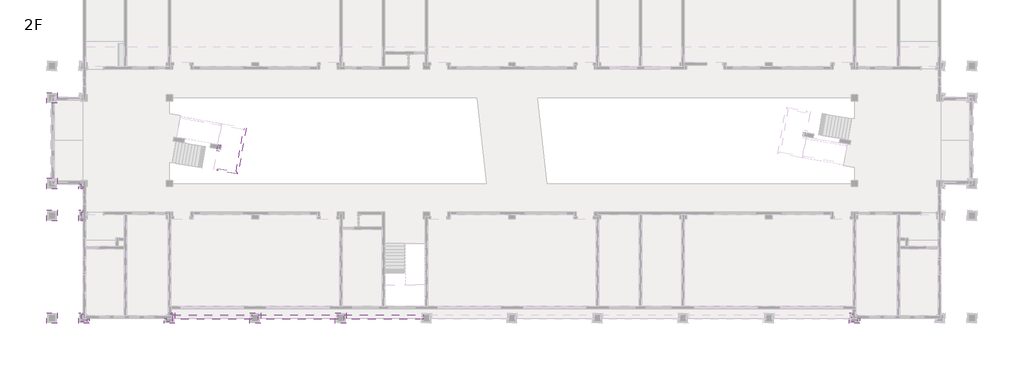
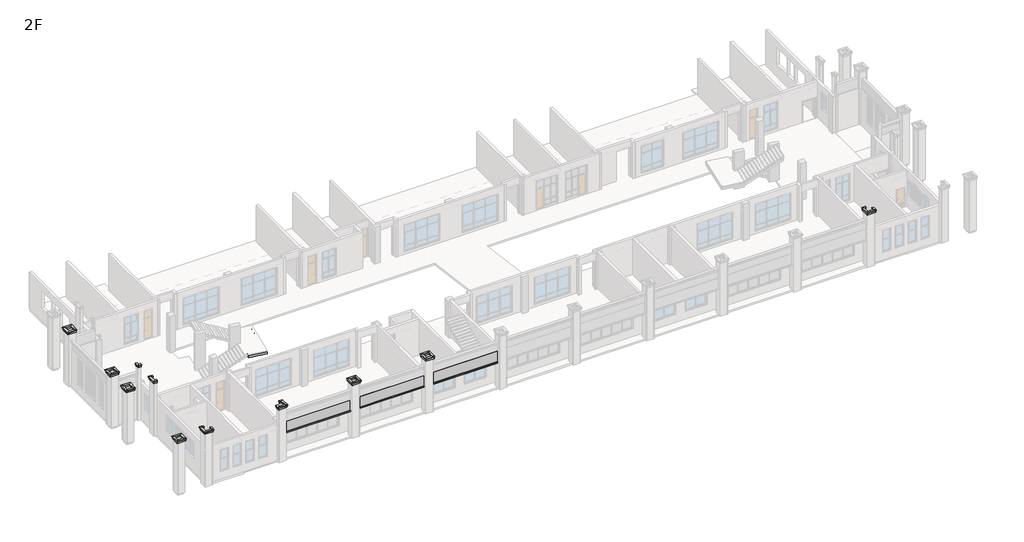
# One storey, part 13 of 16: 14 proxies, 3 members.
"""IFC4 building model written with IfcOpenShell, lengths in millimetres."""

from ifc_helpers import new_model, si_unit, frame, origin, place, context, project, spatial, polyline, outline, extrude, faceted_brep, transform, mapped, element, save
from components import generic_models_fbc45798

model = new_model("IFC4")

# Units and contexts
model_context = context("Model", 3, world=origin())
ifc_project = project(units=[si_unit("LENGTHUNIT", "METRE", prefix="MILLI")], contexts=[model_context])

# Site, building, storey
site = spatial("IfcSite", under=ifc_project)
building = spatial("IfcBuilding", under=site)
storey = spatial("IfcBuildingStorey", under=building, Name="2F", Elevation=4200.0)

# Proxies
placement = place(None, origin())
generic_models_shape = generic_models_fbc45798(model_context)
element("IfcBuildingElementProxy", 1, Name="走廊板 : h=300mm", ObjectType="走廊板 : h=300mm", at=placement, inside=storey, context=model_context, shape_type="MappedRepresentation", body=[
    mapped(generic_models_shape, transform((11300.0, 150.0, 8400.0), x_axis=(1.0, 0.0, 0.0), y_axis=(0.0, 1.0, 0.0), z_axis=(0.0, 0.0, 1.0))),
])
element("IfcBuildingElementProxy", 2, Name="走廊板 : h=300mm", ObjectType="走廊板 : h=300mm", at=placement, inside=storey, context=model_context, shape_type="MappedRepresentation", body=[
    mapped(generic_models_shape, transform((19300.0, 150.0, 8400.0), x_axis=(1.0, 0.0, 0.0), y_axis=(0.0, 1.0, 0.0), z_axis=(0.0, 0.0, 1.0))),
])
element("IfcBuildingElementProxy", 3, Name="走廊板 : h=300mm", ObjectType="走廊板 : h=300mm", at=placement, inside=storey, context=model_context, shape_type="MappedRepresentation", body=[
    mapped(generic_models_shape, transform((27300.0, 150.0, 8400.0), x_axis=(1.0, 0.0, 0.0), y_axis=(0.0, 1.0, 0.0), z_axis=(0.0, 0.0, 1.0))),
])
element("IfcBuildingElementProxy", 4, Name="QS2", ObjectType="QS2", at=placement, inside=storey, context=model_context, shape_type="Brep", body=[
    faceted_brep([(-450.0, 9150.0, 10300.0), (-400.0, 9200.0, 10300.0), (-400.0, 9200.0, 10550.0), (-300.0, 9300.0, 10550.0), (-300.0, 9300.0, 10600.0), (-500.0, 9100.0, 10600.0), (-500.0, 9100.0, 10500.0), (-450.0, 9150.0, 10500.0), (-450.0, 10050.0, 10300.0), (-450.0, 10050.0, 10500.0), (-500.0, 10100.0, 10500.0), (-500.0, 10100.0, 10600.0), (-300.0, 9900.0, 10600.0), (-300.0, 9900.0, 10550.0), (-400.0, 10000.0, 10550.0), (-400.0, 10000.0, 10300.0)], [[[0, 1, 2, 3, 4, 5, 6, 7]], [[8, 9, 10, 11, 12, 13, 14, 15]], [[1, 0, 8, 15]], [[2, 1, 15, 14]], [[3, 2, 14, 13]], [[4, 3, 13, 12]], [[5, 4, 12, 11]], [[6, 5, 11, 10]], [[7, 6, 10, 9]], [[0, 7, 9, 8]]]),
    faceted_brep([(-450.0, 10050.0, 10300.0), (-400.0, 10000.0, 10300.0), (-400.0, 10000.0, 10550.0), (-300.0, 9900.0, 10550.0), (-300.0, 9900.0, 10600.0), (-500.0, 10100.0, 10600.0), (-500.0, 10100.0, 10500.0), (-450.0, 10050.0, 10500.0), (450.0, 10050.0, 10300.0), (450.0, 10050.0, 10500.0), (500.0, 10100.0, 10500.0), (500.0, 10100.0, 10600.0), (300.0, 9900.0, 10600.0), (300.0, 9900.0, 10550.0), (400.0, 10000.0, 10550.0), (400.0, 10000.0, 10300.0)], [[[0, 1, 2, 3, 4, 5, 6, 7]], [[8, 9, 10, 11, 12, 13, 14, 15]], [[1, 0, 8, 15]], [[2, 1, 15, 14]], [[3, 2, 14, 13]], [[4, 3, 13, 12]], [[5, 4, 12, 11]], [[6, 5, 11, 10]], [[7, 6, 10, 9]], [[0, 7, 9, 8]]]),
    faceted_brep([(450.0, 10050.0, 10300.0), (400.0, 10000.0, 10300.0), (400.0, 10000.0, 10550.0), (300.0, 9900.0, 10550.0), (300.0, 9900.0, 10600.0), (500.0, 10100.0, 10600.0), (500.0, 10100.0, 10500.0), (450.0, 10050.0, 10500.0), (450.0, 9150.0, 10300.0), (450.0, 9150.0, 10500.0), (500.0, 9100.0, 10500.0), (500.0, 9100.0, 10600.0), (300.0, 9300.0, 10600.0), (300.0, 9300.0, 10550.0), (400.0, 9200.0, 10550.0), (400.0, 9200.0, 10300.0)], [[[0, 1, 2, 3, 4, 5, 6, 7]], [[8, 9, 10, 11, 12, 13, 14, 15]], [[1, 0, 8, 15]], [[2, 1, 15, 14]], [[3, 2, 14, 13]], [[4, 3, 13, 12]], [[5, 4, 12, 11]], [[6, 5, 11, 10]], [[7, 6, 10, 9]], [[0, 7, 9, 8]]]),
    faceted_brep([(450.0, 9150.0, 10300.0), (400.0, 9200.0, 10300.0), (400.0, 9200.0, 10550.0), (300.0, 9300.0, 10550.0), (300.0, 9300.0, 10600.0), (500.0, 9100.0, 10600.0), (500.0, 9100.0, 10500.0), (450.0, 9150.0, 10500.0), (-450.0, 9150.0, 10300.0), (-450.0, 9150.0, 10500.0), (-500.0, 9100.0, 10500.0), (-500.0, 9100.0, 10600.0), (-300.0, 9300.0, 10600.0), (-300.0, 9300.0, 10550.0), (-400.0, 9200.0, 10550.0), (-400.0, 9200.0, 10300.0)], [[[0, 1, 2, 3, 4, 5, 6, 7]], [[8, 9, 10, 11, 12, 13, 14, 15]], [[1, 0, 8, 15]], [[2, 1, 15, 14]], [[3, 2, 14, 13]], [[4, 3, 13, 12]], [[5, 4, 12, 11]], [[6, 5, 11, 10]], [[7, 6, 10, 9]], [[0, 7, 9, 8]]]),
])
element("IfcBuildingElementProxy", 5, Name="QS2", ObjectType="QS2", at=placement, inside=storey, context=model_context, shape_type="Brep", body=[
    faceted_brep([(-450.0, -450.0, 10300.0), (-400.0, -400.0, 10300.0), (-400.0, -400.0, 10550.0), (-300.0, -300.0, 10550.0), (-300.0, -300.0, 10600.0), (-500.0, -500.0, 10600.0), (-500.0, -500.0, 10500.0), (-450.0, -450.0, 10500.0), (-450.0, 450.0, 10300.0), (-450.0, 450.0, 10500.0), (-500.0, 500.0, 10500.0), (-500.0, 500.0, 10600.0), (-300.0, 300.0, 10600.0), (-300.0, 300.0, 10550.0), (-400.0, 400.0, 10550.0), (-400.0, 400.0, 10300.0)], [[[0, 1, 2, 3, 4, 5, 6, 7]], [[8, 9, 10, 11, 12, 13, 14, 15]], [[1, 0, 8, 15]], [[2, 1, 15, 14]], [[3, 2, 14, 13]], [[4, 3, 13, 12]], [[5, 4, 12, 11]], [[6, 5, 11, 10]], [[7, 6, 10, 9]], [[0, 7, 9, 8]]]),
    faceted_brep([(-450.0, 450.0, 10300.0), (-400.0, 400.0, 10300.0), (-400.0, 400.0, 10550.0), (-300.0, 300.0, 10550.0), (-300.0, 300.0, 10600.0), (-500.0, 500.0, 10600.0), (-500.0, 500.0, 10500.0), (-450.0, 450.0, 10500.0), (450.0, 450.0, 10300.0), (450.0, 450.0, 10500.0), (500.0, 500.0, 10500.0), (500.0, 500.0, 10600.0), (300.0, 300.0, 10600.0), (300.0, 300.0, 10550.0), (400.0, 400.0, 10550.0), (400.0, 400.0, 10300.0)], [[[0, 1, 2, 3, 4, 5, 6, 7]], [[8, 9, 10, 11, 12, 13, 14, 15]], [[1, 0, 8, 15]], [[2, 1, 15, 14]], [[3, 2, 14, 13]], [[4, 3, 13, 12]], [[5, 4, 12, 11]], [[6, 5, 11, 10]], [[7, 6, 10, 9]], [[0, 7, 9, 8]]]),
    faceted_brep([(450.0, 450.0, 10300.0), (400.0, 400.0, 10300.0), (400.0, 400.0, 10550.0), (300.0, 300.0, 10550.0), (300.0, 300.0, 10600.0), (500.0, 500.0, 10600.0), (500.0, 500.0, 10500.0), (450.0, 450.0, 10500.0), (450.0, -450.0, 10300.0), (450.0, -450.0, 10500.0), (500.0, -500.0, 10500.0), (500.0, -500.0, 10600.0), (300.0, -300.0, 10600.0), (300.0, -300.0, 10550.0), (400.0, -400.0, 10550.0), (400.0, -400.0, 10300.0)], [[[0, 1, 2, 3, 4, 5, 6, 7]], [[8, 9, 10, 11, 12, 13, 14, 15]], [[1, 0, 8, 15]], [[2, 1, 15, 14]], [[3, 2, 14, 13]], [[4, 3, 13, 12]], [[5, 4, 12, 11]], [[6, 5, 11, 10]], [[7, 6, 10, 9]], [[0, 7, 9, 8]]]),
    faceted_brep([(450.0, -450.0, 10300.0), (400.0, -400.0, 10300.0), (400.0, -400.0, 10550.0), (300.0, -300.0, 10550.0), (300.0, -300.0, 10600.0), (500.0, -500.0, 10600.0), (500.0, -500.0, 10500.0), (450.0, -450.0, 10500.0), (-450.0, -450.0, 10300.0), (-450.0, -450.0, 10500.0), (-500.0, -500.0, 10500.0), (-500.0, -500.0, 10600.0), (-300.0, -300.0, 10600.0), (-300.0, -300.0, 10550.0), (-400.0, -400.0, 10550.0), (-400.0, -400.0, 10300.0)], [[[0, 1, 2, 3, 4, 5, 6, 7]], [[8, 9, 10, 11, 12, 13, 14, 15]], [[1, 0, 8, 15]], [[2, 1, 15, 14]], [[3, 2, 14, 13]], [[4, 3, 13, 12]], [[5, 4, 12, 11]], [[6, 5, 11, 10]], [[7, 6, 10, 9]], [[0, 7, 9, 8]]]),
])
element("IfcBuildingElementProxy", 6, Name="QS2", ObjectType="QS2", at=placement, inside=storey, context=model_context, shape_type="Brep", body=[
    faceted_brep([(-450.0, 12150.0, 10300.0), (-400.0, 12200.0, 10300.0), (-400.0, 12200.0, 10550.0), (-300.0, 12300.0, 10550.0), (-300.0, 12300.0, 10600.0), (-500.0, 12100.0, 10600.0), (-500.0, 12100.0, 10500.0), (-450.0, 12150.0, 10500.0), (-450.0, 13050.0, 10300.0), (-450.0, 13050.0, 10500.0), (-500.0, 13100.0, 10500.0), (-500.0, 13100.0, 10600.0), (-300.0, 12900.0, 10600.0), (-300.0, 12900.0, 10550.0), (-400.0, 13000.0, 10550.0), (-400.0, 13000.0, 10300.0)], [[[0, 1, 2, 3, 4, 5, 6, 7]], [[8, 9, 10, 11, 12, 13, 14, 15]], [[1, 0, 8, 15]], [[2, 1, 15, 14]], [[3, 2, 14, 13]], [[4, 3, 13, 12]], [[5, 4, 12, 11]], [[6, 5, 11, 10]], [[7, 6, 10, 9]], [[0, 7, 9, 8]]]),
    faceted_brep([(-450.0, 13050.0, 10300.0), (-400.0, 13000.0, 10300.0), (-400.0, 13000.0, 10550.0), (-300.0, 12900.0, 10550.0), (-300.0, 12900.0, 10600.0), (-500.0, 13100.0, 10600.0), (-500.0, 13100.0, 10500.0), (-450.0, 13050.0, 10500.0), (450.0, 13050.0, 10300.0), (450.0, 13050.0, 10500.0), (500.0, 13100.0, 10500.0), (500.0, 13100.0, 10600.0), (300.0, 12900.0, 10600.0), (300.0, 12900.0, 10550.0), (400.0, 13000.0, 10550.0), (400.0, 13000.0, 10300.0)], [[[0, 1, 2, 3, 4, 5, 6, 7]], [[8, 9, 10, 11, 12, 13, 14, 15]], [[1, 0, 8, 15]], [[2, 1, 15, 14]], [[3, 2, 14, 13]], [[4, 3, 13, 12]], [[5, 4, 12, 11]], [[6, 5, 11, 10]], [[7, 6, 10, 9]], [[0, 7, 9, 8]]]),
    faceted_brep([(450.0, 13050.0, 10300.0), (400.0, 13000.0, 10300.0), (400.0, 13000.0, 10550.0), (300.0, 12900.0, 10550.0), (300.0, 12900.0, 10600.0), (500.0, 13100.0, 10600.0), (500.0, 13100.0, 10500.0), (450.0, 13050.0, 10500.0), (450.0, 12150.0, 10300.0), (450.0, 12150.0, 10500.0), (500.0, 12100.0, 10500.0), (500.0, 12100.0, 10600.0), (300.0, 12300.0, 10600.0), (300.0, 12300.0, 10550.0), (400.0, 12200.0, 10550.0), (400.0, 12200.0, 10300.0)], [[[0, 1, 2, 3, 4, 5, 6, 7]], [[8, 9, 10, 11, 12, 13, 14, 15]], [[1, 0, 8, 15]], [[2, 1, 15, 14]], [[3, 2, 14, 13]], [[4, 3, 13, 12]], [[5, 4, 12, 11]], [[6, 5, 11, 10]], [[7, 6, 10, 9]], [[0, 7, 9, 8]]]),
    faceted_brep([(450.0, 12150.0, 10300.0), (400.0, 12200.0, 10300.0), (400.0, 12200.0, 10550.0), (300.0, 12300.0, 10550.0), (300.0, 12300.0, 10600.0), (500.0, 12100.0, 10600.0), (500.0, 12100.0, 10500.0), (450.0, 12150.0, 10500.0), (-450.0, 12150.0, 10300.0), (-450.0, 12150.0, 10500.0), (-500.0, 12100.0, 10500.0), (-500.0, 12100.0, 10600.0), (-300.0, 12300.0, 10600.0), (-300.0, 12300.0, 10550.0), (-400.0, 12200.0, 10550.0), (-400.0, 12200.0, 10300.0)], [[[0, 1, 2, 3, 4, 5, 6, 7]], [[8, 9, 10, 11, 12, 13, 14, 15]], [[1, 0, 8, 15]], [[2, 1, 15, 14]], [[3, 2, 14, 13]], [[4, 3, 13, 12]], [[5, 4, 12, 11]], [[6, 5, 11, 10]], [[7, 6, 10, 9]], [[0, 7, 9, 8]]]),
])
element("IfcBuildingElementProxy", 7, Name="QS2", ObjectType="QS2", at=placement, inside=storey, context=model_context, shape_type="Brep", body=[
    faceted_brep([(-450.0, 20150.0, 10300.0), (-400.0, 20200.0, 10300.0), (-400.0, 20200.0, 10550.0), (-300.0, 20300.0, 10550.0), (-300.0, 20300.0, 10600.0), (-500.0, 20100.0, 10600.0), (-500.0, 20100.0, 10500.0), (-450.0, 20150.0, 10500.0), (-450.0, 21050.0, 10300.0), (-450.0, 21050.0, 10500.0), (-500.0, 21100.0, 10500.0), (-500.0, 21100.0, 10600.0), (-300.0, 20900.0, 10600.0), (-300.0, 20900.0, 10550.0), (-400.0, 21000.0, 10550.0), (-400.0, 21000.0, 10300.0)], [[[0, 1, 2, 3, 4, 5, 6, 7]], [[8, 9, 10, 11, 12, 13, 14, 15]], [[1, 0, 8, 15]], [[2, 1, 15, 14]], [[3, 2, 14, 13]], [[4, 3, 13, 12]], [[5, 4, 12, 11]], [[6, 5, 11, 10]], [[7, 6, 10, 9]], [[0, 7, 9, 8]]]),
    faceted_brep([(-450.0, 21050.0, 10300.0), (-400.0, 21000.0, 10300.0), (-400.0, 21000.0, 10550.0), (-300.0, 20900.0, 10550.0), (-300.0, 20900.0, 10600.0), (-500.0, 21100.0, 10600.0), (-500.0, 21100.0, 10500.0), (-450.0, 21050.0, 10500.0), (450.0, 21050.0, 10300.0), (450.0, 21050.0, 10500.0), (500.0, 21100.0, 10500.0), (500.0, 21100.0, 10600.0), (300.0, 20900.0, 10600.0), (300.0, 20900.0, 10550.0), (400.0, 21000.0, 10550.0), (400.0, 21000.0, 10300.0)], [[[0, 1, 2, 3, 4, 5, 6, 7]], [[8, 9, 10, 11, 12, 13, 14, 15]], [[1, 0, 8, 15]], [[2, 1, 15, 14]], [[3, 2, 14, 13]], [[4, 3, 13, 12]], [[5, 4, 12, 11]], [[6, 5, 11, 10]], [[7, 6, 10, 9]], [[0, 7, 9, 8]]]),
    faceted_brep([(450.0, 21050.0, 10300.0), (400.0, 21000.0, 10300.0), (400.0, 21000.0, 10550.0), (300.0, 20900.0, 10550.0), (300.0, 20900.0, 10600.0), (500.0, 21100.0, 10600.0), (500.0, 21100.0, 10500.0), (450.0, 21050.0, 10500.0), (450.0, 20150.0, 10300.0), (450.0, 20150.0, 10500.0), (500.0, 20100.0, 10500.0), (500.0, 20100.0, 10600.0), (300.0, 20300.0, 10600.0), (300.0, 20300.0, 10550.0), (400.0, 20200.0, 10550.0), (400.0, 20200.0, 10300.0)], [[[0, 1, 2, 3, 4, 5, 6, 7]], [[8, 9, 10, 11, 12, 13, 14, 15]], [[1, 0, 8, 15]], [[2, 1, 15, 14]], [[3, 2, 14, 13]], [[4, 3, 13, 12]], [[5, 4, 12, 11]], [[6, 5, 11, 10]], [[7, 6, 10, 9]], [[0, 7, 9, 8]]]),
    faceted_brep([(450.0, 20150.0, 10300.0), (400.0, 20200.0, 10300.0), (400.0, 20200.0, 10550.0), (300.0, 20300.0, 10550.0), (300.0, 20300.0, 10600.0), (500.0, 20100.0, 10600.0), (500.0, 20100.0, 10500.0), (450.0, 20150.0, 10500.0), (-450.0, 20150.0, 10300.0), (-450.0, 20150.0, 10500.0), (-500.0, 20100.0, 10500.0), (-500.0, 20100.0, 10600.0), (-300.0, 20300.0, 10600.0), (-300.0, 20300.0, 10550.0), (-400.0, 20200.0, 10550.0), (-400.0, 20200.0, 10300.0)], [[[0, 1, 2, 3, 4, 5, 6, 7]], [[8, 9, 10, 11, 12, 13, 14, 15]], [[1, 0, 8, 15]], [[2, 1, 15, 14]], [[3, 2, 14, 13]], [[4, 3, 13, 12]], [[5, 4, 12, 11]], [[6, 5, 11, 10]], [[7, 6, 10, 9]], [[0, 7, 9, 8]]]),
])
element("IfcBuildingElementProxy", 8, Name="QS2", ObjectType="QS2", at=placement, inside=storey, context=model_context, shape_type="Brep", body=[
    faceted_brep([(3450.0, -52.6954639, 10300.0), (3400.0, -52.6954639, 10300.0), (3400.0, -52.6954639, 10550.0), (3300.0, -52.6954639, 10550.0), (3300.0, -52.6954639, 10600.0), (3500.0, -52.6954639, 10600.0), (3500.0, -52.6954639, 10500.0), (3450.0, -52.6954639, 10500.0), (3450.0, -450.0, 10300.0), (3450.0, -450.0, 10500.0), (3500.0, -500.0, 10500.0), (3500.0, -500.0, 10600.0), (3300.0, -300.0, 10600.0), (3300.0, -300.0, 10550.0), (3400.0, -400.0, 10550.0), (3400.0, -400.0, 10300.0)], [[[0, 1, 2, 3, 4, 5, 6, 7]], [[8, 9, 10, 11, 12, 13, 14, 15]], [[0, 7, 9, 8]], [[7, 6, 10, 9]], [[6, 5, 11, 10]], [[5, 4, 12, 11]], [[4, 3, 13, 12]], [[3, 2, 14, 13]], [[2, 1, 15, 14]], [[1, 0, 8, 15]]]),
    faceted_brep([(3450.0, -450.0, 10300.0), (3400.0, -400.0, 10300.0), (3400.0, -400.0, 10550.0), (3300.0, -300.0, 10550.0), (3300.0, -300.0, 10600.0), (3500.0, -500.0, 10600.0), (3500.0, -500.0, 10500.0), (3450.0, -450.0, 10500.0), (2550.0, -450.0, 10300.0), (2550.0, -450.0, 10500.0), (2500.0, -500.0, 10500.0), (2500.0, -500.0, 10600.0), (2700.0, -300.0, 10600.0), (2700.0, -300.0, 10550.0), (2600.0, -400.0, 10550.0), (2600.0, -400.0, 10300.0)], [[[0, 1, 2, 3, 4, 5, 6, 7]], [[8, 9, 10, 11, 12, 13, 14, 15]], [[0, 7, 9, 8]], [[7, 6, 10, 9]], [[6, 5, 11, 10]], [[5, 4, 12, 11]], [[4, 3, 13, 12]], [[3, 2, 14, 13]], [[2, 1, 15, 14]], [[1, 0, 8, 15]]]),
    faceted_brep([(2550.0, -450.0, 10300.0), (2600.0, -400.0, 10300.0), (2600.0, -400.0, 10550.0), (2700.0, -300.0, 10550.0), (2700.0, -300.0, 10600.0), (2500.0, -500.0, 10600.0), (2500.0, -500.0, 10500.0), (2550.0, -450.0, 10500.0), (2550.0, 450.0, 10300.0), (2550.0, 450.0, 10500.0), (2500.0, 500.0, 10500.0), (2500.0, 500.0, 10600.0), (2700.0, 300.0, 10600.0), (2700.0, 300.0, 10550.0), (2600.0, 400.0, 10550.0), (2600.0, 400.0, 10300.0)], [[[0, 1, 2, 3, 4, 5, 6, 7]], [[8, 9, 10, 11, 12, 13, 14, 15]], [[0, 7, 9, 8]], [[7, 6, 10, 9]], [[6, 5, 11, 10]], [[5, 4, 12, 11]], [[4, 3, 13, 12]], [[3, 2, 14, 13]], [[2, 1, 15, 14]], [[1, 0, 8, 15]]]),
    faceted_brep([(2550.0, 450.0, 10300.0), (2600.0, 400.0, 10300.0), (2600.0, 400.0, 10550.0), (2700.0, 300.0, 10550.0), (2700.0, 300.0, 10600.0), (2500.0, 500.0, 10600.0), (2500.0, 500.0, 10500.0), (2550.0, 450.0, 10500.0), (2897.0000002, 450.0, 10300.0), (2897.0000002, 450.0, 10500.0), (2897.0000002, 500.0, 10500.0), (2897.0000002, 500.0, 10600.0), (2897.0000002, 300.0, 10600.0), (2897.0000002, 300.0, 10550.0), (2897.0000002, 400.0, 10550.0), (2897.0000002, 400.0, 10300.0)], [[[0, 1, 2, 3, 4, 5, 6, 7]], [[8, 9, 10, 11, 12, 13, 14, 15]], [[0, 7, 9, 8]], [[7, 6, 10, 9]], [[6, 5, 11, 10]], [[5, 4, 12, 11]], [[4, 3, 13, 12]], [[3, 2, 14, 13]], [[2, 1, 15, 14]], [[1, 0, 8, 15]]]),
])
element("IfcBuildingElementProxy", 9, Name="QS2", ObjectType="QS2", at=placement, inside=storey, context=model_context, shape_type="Brep", body=[
    faceted_brep([(2897.0000002, 9150.0, 10300.0), (2897.0000002, 9200.0, 10300.0), (2897.0000002, 9200.0, 10550.0), (2897.0000002, 9300.0, 10550.0), (2897.0000002, 9300.0, 10600.0), (2897.0000002, 9100.0, 10600.0), (2897.0000002, 9100.0, 10500.0), (2897.0000002, 9150.0, 10500.0), (2550.0, 9150.0, 10300.0), (2550.0, 9150.0, 10500.0), (2500.0, 9100.0, 10500.0), (2500.0, 9100.0, 10600.0), (2700.0, 9300.0, 10600.0), (2700.0, 9300.0, 10550.0), (2600.0, 9200.0, 10550.0), (2600.0, 9200.0, 10300.0)], [[[0, 1, 2, 3, 4, 5, 6, 7]], [[8, 9, 10, 11, 12, 13, 14, 15]], [[0, 7, 9, 8]], [[7, 6, 10, 9]], [[6, 5, 11, 10]], [[5, 4, 12, 11]], [[4, 3, 13, 12]], [[3, 2, 14, 13]], [[2, 1, 15, 14]], [[1, 0, 8, 15]]]),
    faceted_brep([(2550.0, 9150.0, 10300.0), (2600.0, 9200.0, 10300.0), (2600.0, 9200.0, 10550.0), (2700.0, 9300.0, 10550.0), (2700.0, 9300.0, 10600.0), (2500.0, 9100.0, 10600.0), (2500.0, 9100.0, 10500.0), (2550.0, 9150.0, 10500.0), (2550.0, 10050.0, 10300.0), (2550.0, 10050.0, 10500.0), (2500.0, 10100.0, 10500.0), (2500.0, 10100.0, 10600.0), (2700.0, 9900.0, 10600.0), (2700.0, 9900.0, 10550.0), (2600.0, 10000.0, 10550.0), (2600.0, 10000.0, 10300.0)], [[[0, 1, 2, 3, 4, 5, 6, 7]], [[8, 9, 10, 11, 12, 13, 14, 15]], [[0, 7, 9, 8]], [[7, 6, 10, 9]], [[6, 5, 11, 10]], [[5, 4, 12, 11]], [[4, 3, 13, 12]], [[3, 2, 14, 13]], [[2, 1, 15, 14]], [[1, 0, 8, 15]]]),
    faceted_brep([(2550.0, 10050.0, 10300.0), (2600.0, 10000.0, 10300.0), (2600.0, 10000.0, 10550.0), (2700.0, 9900.0, 10550.0), (2700.0, 9900.0, 10600.0), (2500.0, 10100.0, 10600.0), (2500.0, 10100.0, 10500.0), (2550.0, 10050.0, 10500.0), (2897.0000002, 10050.0, 10300.0), (2897.0000002, 10050.0, 10500.0), (2897.0000002, 10100.0, 10500.0), (2897.0000002, 10100.0, 10600.0), (2897.0000002, 9900.0, 10600.0), (2897.0000002, 9900.0, 10550.0), (2897.0000002, 10000.0, 10550.0), (2897.0000002, 10000.0, 10300.0)], [[[0, 1, 2, 3, 4, 5, 6, 7]], [[8, 9, 10, 11, 12, 13, 14, 15]], [[0, 7, 9, 8]], [[7, 6, 10, 9]], [[6, 5, 11, 10]], [[5, 4, 12, 11]], [[4, 3, 13, 12]], [[3, 2, 14, 13]], [[2, 1, 15, 14]], [[1, 0, 8, 15]]]),
])
element("IfcBuildingElementProxy", 10, Name="QS2", ObjectType="QS2", at=placement, inside=storey, context=model_context, shape_type="Brep", body=[
    faceted_brep([(2897.0000002, 12150.0, 10300.0), (2897.0000002, 12200.0, 10300.0), (2897.0000002, 12200.0, 10550.0), (2897.0000002, 12300.0, 10550.0), (2897.0000002, 12300.0, 10600.0), (2897.0000002, 12100.0, 10600.0), (2897.0000002, 12100.0, 10500.0), (2897.0000002, 12150.0, 10500.0), (2550.0, 12150.0, 10300.0), (2550.0, 12150.0, 10500.0), (2500.0, 12100.0, 10500.0), (2500.0, 12100.0, 10600.0), (2700.0, 12300.0, 10600.0), (2700.0, 12300.0, 10550.0), (2600.0, 12200.0, 10550.0), (2600.0, 12200.0, 10300.0)], [[[0, 1, 2, 3, 4, 5, 6, 7]], [[8, 9, 10, 11, 12, 13, 14, 15]], [[0, 7, 9, 8]], [[7, 6, 10, 9]], [[6, 5, 11, 10]], [[5, 4, 12, 11]], [[4, 3, 13, 12]], [[3, 2, 14, 13]], [[2, 1, 15, 14]], [[1, 0, 8, 15]]]),
    faceted_brep([(2550.0, 12150.0, 10300.0), (2600.0, 12200.0, 10300.0), (2600.0, 12200.0, 10550.0), (2700.0, 12300.0, 10550.0), (2700.0, 12300.0, 10600.0), (2500.0, 12100.0, 10600.0), (2500.0, 12100.0, 10500.0), (2550.0, 12150.0, 10500.0), (2550.0, 12566.6954636, 10300.0), (2550.0, 12566.6954636, 10500.0), (2500.0, 12566.6954636, 10500.0), (2500.0, 12566.6954636, 10600.0), (2700.0, 12566.6954636, 10600.0), (2700.0, 12566.6954636, 10550.0), (2600.0, 12566.6954636, 10550.0), (2600.0, 12566.6954636, 10300.0)], [[[0, 1, 2, 3, 4, 5, 6, 7]], [[8, 9, 10, 11, 12, 13, 14, 15]], [[0, 7, 9, 8]], [[7, 6, 10, 9]], [[6, 5, 11, 10]], [[5, 4, 12, 11]], [[4, 3, 13, 12]], [[3, 2, 14, 13]], [[2, 1, 15, 14]], [[1, 0, 8, 15]]]),
])
element("IfcBuildingElementProxy", 11, Name="QS2", ObjectType="QS2", at=placement, inside=storey, context=model_context, shape_type="Brep", body=[
    faceted_brep([(75450.0, -32.6954642, 10300.0), (75400.0, -32.6954642, 10300.0), (75400.0, -32.6954642, 10550.0), (75300.0, -32.6954642, 10550.0), (75300.0, -32.6954642, 10600.0), (75500.0, -32.6954642, 10600.0), (75500.0, -32.6954642, 10500.0), (75450.0, -32.6954642, 10500.0), (75450.0, -450.6090721, 10300.0), (75450.0, -450.6090721, 10500.0), (75500.0, -500.6090721, 10500.0), (75500.0, -500.6090721, 10600.0), (75300.0, -300.6090721, 10600.0), (75300.0, -300.6090721, 10550.0), (75400.0, -400.6090721, 10550.0), (75400.0, -400.6090721, 10300.0)], [[[0, 1, 2, 3, 4, 5, 6, 7]], [[8, 9, 10, 11, 12, 13, 14, 15]], [[1, 0, 8, 15]], [[2, 1, 15, 14]], [[3, 2, 14, 13]], [[4, 3, 13, 12]], [[5, 4, 12, 11]], [[6, 5, 11, 10]], [[7, 6, 10, 9]], [[0, 7, 9, 8]]]),
    faceted_brep([(75450.0, -450.6090721, 10300.0), (75400.0, -400.6090721, 10300.0), (75400.0, -400.6090721, 10550.0), (75300.0, -300.6090721, 10550.0), (75300.0, -300.6090721, 10600.0), (75500.0, -500.6090721, 10600.0), (75500.0, -500.6090721, 10500.0), (75450.0, -450.6090721, 10500.0), (74550.0, -450.6090721, 10300.0), (74550.0, -450.6090721, 10500.0), (74500.0, -500.6090721, 10500.0), (74500.0, -500.6090721, 10600.0), (74700.0, -300.6090721, 10600.0), (74700.0, -300.6090721, 10550.0), (74600.0, -400.6090721, 10550.0), (74600.0, -400.6090721, 10300.0)], [[[0, 1, 2, 3, 4, 5, 6, 7]], [[8, 9, 10, 11, 12, 13, 14, 15]], [[1, 0, 8, 15]], [[2, 1, 15, 14]], [[3, 2, 14, 13]], [[4, 3, 13, 12]], [[5, 4, 12, 11]], [[6, 5, 11, 10]], [[7, 6, 10, 9]], [[0, 7, 9, 8]]]),
    faceted_brep([(74550.0, -450.6090721, 10300.0), (74600.0, -400.6090721, 10300.0), (74600.0, -400.6090721, 10550.0), (74700.0, -300.6090721, 10550.0), (74700.0, -300.6090721, 10600.0), (74500.0, -500.6090721, 10600.0), (74500.0, -500.6090721, 10500.0), (74550.0, -450.6090721, 10500.0), (74550.0, 449.3909279, 10300.0), (74550.0, 449.3909279, 10500.0), (74500.0, 499.3909279, 10500.0), (74500.0, 499.3909279, 10600.0), (74700.0, 299.3909279, 10600.0), (74700.0, 299.3909279, 10550.0), (74600.0, 399.3909279, 10550.0), (74600.0, 399.3909279, 10300.0)], [[[0, 1, 2, 3, 4, 5, 6, 7]], [[8, 9, 10, 11, 12, 13, 14, 15]], [[1, 0, 8, 15]], [[2, 1, 15, 14]], [[3, 2, 14, 13]], [[4, 3, 13, 12]], [[5, 4, 12, 11]], [[6, 5, 11, 10]], [[7, 6, 10, 9]], [[0, 7, 9, 8]]]),
    faceted_brep([(74550.0, 449.3909279, 10300.0), (74600.0, 399.3909279, 10300.0), (74600.0, 399.3909279, 10550.0), (74700.0, 299.3909279, 10550.0), (74700.0, 299.3909279, 10600.0), (74500.0, 499.3909279, 10600.0), (74500.0, 499.3909279, 10500.0), (74550.0, 449.3909279, 10500.0), (74867.0, 449.3909279, 10300.0), (74867.0, 449.3909279, 10500.0), (74867.0, 499.3909279, 10500.0), (74867.0, 499.3909279, 10600.0), (74867.0, 299.3909279, 10600.0), (74867.0, 299.3909279, 10550.0), (74867.0, 399.3909279, 10550.0), (74867.0, 399.3909279, 10300.0)], [[[0, 1, 2, 3, 4, 5, 6, 7]], [[8, 9, 10, 11, 12, 13, 14, 15]], [[1, 0, 8, 15]], [[2, 1, 15, 14]], [[3, 2, 14, 13]], [[4, 3, 13, 12]], [[5, 4, 12, 11]], [[6, 5, 11, 10]], [[7, 6, 10, 9]], [[0, 7, 9, 8]]]),
])
element("IfcBuildingElementProxy", 12, Name="QS2", ObjectType="QS2", at=placement, inside=storey, context=model_context, shape_type="Brep", body=[
    faceted_brep([(10550.0, -32.6954639, 10300.0), (10550.0, -32.6954639, 10500.0), (10500.0, -32.6954639, 10500.0), (10500.0, -32.6954639, 10600.0), (10700.0, -32.6954639, 10600.0), (10700.0, -32.6954639, 10550.0), (10600.0, -32.6954639, 10550.0), (10600.0, -32.6954639, 10300.0), (10550.0, -450.0, 10300.0), (10600.0, -400.0, 10300.0), (10600.0, -400.0, 10550.0), (10700.0, -300.0, 10550.0), (10700.0, -300.0, 10600.0), (10500.0, -500.0, 10600.0), (10500.0, -500.0, 10500.0), (10550.0, -450.0, 10500.0)], [[[0, 1, 2, 3, 4, 5, 6, 7]], [[8, 9, 10, 11, 12, 13, 14, 15]], [[0, 7, 9, 8]], [[7, 6, 10, 9]], [[6, 5, 11, 10]], [[5, 4, 12, 11]], [[4, 3, 13, 12]], [[3, 2, 14, 13]], [[2, 1, 15, 14]], [[1, 0, 8, 15]]]),
    faceted_brep([(10550.0, -450.0, 10300.0), (10550.0, -450.0, 10500.0), (10500.0, -500.0, 10500.0), (10500.0, -500.0, 10600.0), (10700.0, -300.0, 10600.0), (10700.0, -300.0, 10550.0), (10600.0, -400.0, 10550.0), (10600.0, -400.0, 10300.0), (11450.0, -450.0, 10300.0), (11400.0, -400.0, 10300.0), (11400.0, -400.0, 10550.0), (11300.0, -300.0, 10550.0), (11300.0, -300.0, 10600.0), (11500.0, -500.0, 10600.0), (11500.0, -500.0, 10500.0), (11450.0, -450.0, 10500.0)], [[[0, 1, 2, 3, 4, 5, 6, 7]], [[8, 9, 10, 11, 12, 13, 14, 15]], [[0, 7, 9, 8]], [[7, 6, 10, 9]], [[6, 5, 11, 10]], [[5, 4, 12, 11]], [[4, 3, 13, 12]], [[3, 2, 14, 13]], [[2, 1, 15, 14]], [[1, 0, 8, 15]]]),
    faceted_brep([(11450.0, -450.0, 10300.0), (11450.0, -450.0, 10500.0), (11500.0, -500.0, 10500.0), (11500.0, -500.0, 10600.0), (11300.0, -300.0, 10600.0), (11300.0, -300.0, 10550.0), (11400.0, -400.0, 10550.0), (11400.0, -400.0, 10300.0), (11450.0, 450.0, 10300.0), (11400.0, 400.0, 10300.0), (11400.0, 400.0, 10550.0), (11300.0, 300.0, 10550.0), (11300.0, 300.0, 10600.0), (11500.0, 500.0, 10600.0), (11500.0, 500.0, 10500.0), (11450.0, 450.0, 10500.0)], [[[0, 1, 2, 3, 4, 5, 6, 7]], [[8, 9, 10, 11, 12, 13, 14, 15]], [[0, 7, 9, 8]], [[7, 6, 10, 9]], [[6, 5, 11, 10]], [[5, 4, 12, 11]], [[4, 3, 13, 12]], [[3, 2, 14, 13]], [[2, 1, 15, 14]], [[1, 0, 8, 15]]]),
    faceted_brep([(11450.0, 450.0, 10300.0), (11450.0, 450.0, 10500.0), (11500.0, 500.0, 10500.0), (11500.0, 500.0, 10600.0), (11300.0, 300.0, 10600.0), (11300.0, 300.0, 10550.0), (11400.0, 400.0, 10550.0), (11400.0, 400.0, 10300.0), (11133.0, 450.0, 10300.0), (11133.0, 400.0, 10300.0), (11133.0, 400.0, 10550.0), (11133.0, 300.0, 10550.0), (11133.0, 300.0, 10600.0), (11133.0, 500.0, 10600.0), (11133.0, 500.0, 10500.0), (11133.0, 450.0, 10500.0)], [[[0, 1, 2, 3, 4, 5, 6, 7]], [[8, 9, 10, 11, 12, 13, 14, 15]], [[0, 7, 9, 8]], [[7, 6, 10, 9]], [[6, 5, 11, 10]], [[5, 4, 12, 11]], [[4, 3, 13, 12]], [[3, 2, 14, 13]], [[2, 1, 15, 14]], [[1, 0, 8, 15]]]),
])
element("IfcBuildingElementProxy", 13, Name="QS2", ObjectType="QS2", at=placement, inside=storey, context=model_context, shape_type="Brep", body=[
    faceted_brep([(18550.0, 450.359792, 10300.0), (18550.0, 450.359792, 10500.0), (18500.0, 500.359792, 10500.0), (18500.0, 500.359792, 10600.0), (18700.0, 300.359792, 10600.0), (18700.0, 300.359792, 10550.0), (18600.0, 400.359792, 10550.0), (18600.0, 400.359792, 10300.0), (18550.0, -450.0, 10300.0), (18600.0, -400.0, 10300.0), (18600.0, -400.0, 10550.0), (18700.0, -300.0, 10550.0), (18700.0, -300.0, 10600.0), (18500.0, -500.0, 10600.0), (18500.0, -500.0, 10500.0), (18550.0, -450.0, 10500.0)], [[[0, 1, 2, 3, 4, 5, 6, 7]], [[8, 9, 10, 11, 12, 13, 14, 15]], [[0, 7, 9, 8]], [[7, 6, 10, 9]], [[6, 5, 11, 10]], [[5, 4, 12, 11]], [[4, 3, 13, 12]], [[3, 2, 14, 13]], [[2, 1, 15, 14]], [[1, 0, 8, 15]]]),
    faceted_brep([(18550.0, -450.0, 10300.0), (18550.0, -450.0, 10500.0), (18500.0, -500.0, 10500.0), (18500.0, -500.0, 10600.0), (18700.0, -300.0, 10600.0), (18700.0, -300.0, 10550.0), (18600.0, -400.0, 10550.0), (18600.0, -400.0, 10300.0), (19450.0, -450.0, 10300.0), (19400.0, -400.0, 10300.0), (19400.0, -400.0, 10550.0), (19300.0, -300.0, 10550.0), (19300.0, -300.0, 10600.0), (19500.0, -500.0, 10600.0), (19500.0, -500.0, 10500.0), (19450.0, -450.0, 10500.0)], [[[0, 1, 2, 3, 4, 5, 6, 7]], [[8, 9, 10, 11, 12, 13, 14, 15]], [[0, 7, 9, 8]], [[7, 6, 10, 9]], [[6, 5, 11, 10]], [[5, 4, 12, 11]], [[4, 3, 13, 12]], [[3, 2, 14, 13]], [[2, 1, 15, 14]], [[1, 0, 8, 15]]]),
    faceted_brep([(19450.0, -450.0, 10300.0), (19450.0, -450.0, 10500.0), (19500.0, -500.0, 10500.0), (19500.0, -500.0, 10600.0), (19300.0, -300.0, 10600.0), (19300.0, -300.0, 10550.0), (19400.0, -400.0, 10550.0), (19400.0, -400.0, 10300.0), (19450.0, 450.359792, 10300.0), (19400.0, 400.359792, 10300.0), (19400.0, 400.359792, 10550.0), (19300.0, 300.359792, 10550.0), (19300.0, 300.359792, 10600.0), (19500.0, 500.359792, 10600.0), (19500.0, 500.359792, 10500.0), (19450.0, 450.359792, 10500.0)], [[[0, 1, 2, 3, 4, 5, 6, 7]], [[8, 9, 10, 11, 12, 13, 14, 15]], [[0, 7, 9, 8]], [[7, 6, 10, 9]], [[6, 5, 11, 10]], [[5, 4, 12, 11]], [[4, 3, 13, 12]], [[3, 2, 14, 13]], [[2, 1, 15, 14]], [[1, 0, 8, 15]]]),
    faceted_brep([(19450.0, 450.359792, 10300.0), (19450.0, 450.359792, 10500.0), (19500.0, 500.359792, 10500.0), (19500.0, 500.359792, 10600.0), (19300.0, 300.359792, 10600.0), (19300.0, 300.359792, 10550.0), (19400.0, 400.359792, 10550.0), (19400.0, 400.359792, 10300.0), (18550.0, 450.359792, 10300.0), (18600.0, 400.359792, 10300.0), (18600.0, 400.359792, 10550.0), (18700.0, 300.359792, 10550.0), (18700.0, 300.359792, 10600.0), (18500.0, 500.359792, 10600.0), (18500.0, 500.359792, 10500.0), (18550.0, 450.359792, 10500.0)], [[[0, 1, 2, 3, 4, 5, 6, 7]], [[8, 9, 10, 11, 12, 13, 14, 15]], [[0, 7, 9, 8]], [[7, 6, 10, 9]], [[6, 5, 11, 10]], [[5, 4, 12, 11]], [[4, 3, 13, 12]], [[3, 2, 14, 13]], [[2, 1, 15, 14]], [[1, 0, 8, 15]]]),
])
element("IfcBuildingElementProxy", 14, Name="QS2", ObjectType="QS2", at=placement, inside=storey, context=model_context, shape_type="Brep", body=[
    faceted_brep([(26550.0, 450.359792, 10300.0), (26550.0, 450.359792, 10500.0), (26500.0, 500.359792, 10500.0), (26500.0, 500.359792, 10600.0), (26700.0, 300.359792, 10600.0), (26700.0, 300.359792, 10550.0), (26600.0, 400.359792, 10550.0), (26600.0, 400.359792, 10300.0), (26550.0, -450.0, 10300.0), (26600.0, -400.0, 10300.0), (26600.0, -400.0, 10550.0), (26700.0, -300.0, 10550.0), (26700.0, -300.0, 10600.0), (26500.0, -500.0, 10600.0), (26500.0, -500.0, 10500.0), (26550.0, -450.0, 10500.0)], [[[0, 1, 2, 3, 4, 5, 6, 7]], [[8, 9, 10, 11, 12, 13, 14, 15]], [[0, 7, 9, 8]], [[7, 6, 10, 9]], [[6, 5, 11, 10]], [[5, 4, 12, 11]], [[4, 3, 13, 12]], [[3, 2, 14, 13]], [[2, 1, 15, 14]], [[1, 0, 8, 15]]]),
    faceted_brep([(26550.0, -450.0, 10300.0), (26550.0, -450.0, 10500.0), (26500.0, -500.0, 10500.0), (26500.0, -500.0, 10600.0), (26700.0, -300.0, 10600.0), (26700.0, -300.0, 10550.0), (26600.0, -400.0, 10550.0), (26600.0, -400.0, 10300.0), (27450.0, -450.0, 10300.0), (27400.0, -400.0, 10300.0), (27400.0, -400.0, 10550.0), (27300.0, -300.0, 10550.0), (27300.0, -300.0, 10600.0), (27500.0, -500.0, 10600.0), (27500.0, -500.0, 10500.0), (27450.0, -450.0, 10500.0)], [[[0, 1, 2, 3, 4, 5, 6, 7]], [[8, 9, 10, 11, 12, 13, 14, 15]], [[0, 7, 9, 8]], [[7, 6, 10, 9]], [[6, 5, 11, 10]], [[5, 4, 12, 11]], [[4, 3, 13, 12]], [[3, 2, 14, 13]], [[2, 1, 15, 14]], [[1, 0, 8, 15]]]),
    faceted_brep([(27450.0, -450.0, 10300.0), (27450.0, -450.0, 10500.0), (27500.0, -500.0, 10500.0), (27500.0, -500.0, 10600.0), (27300.0, -300.0, 10600.0), (27300.0, -300.0, 10550.0), (27400.0, -400.0, 10550.0), (27400.0, -400.0, 10300.0), (27450.0, 450.359792, 10300.0), (27400.0, 400.359792, 10300.0), (27400.0, 400.359792, 10550.0), (27300.0, 300.359792, 10550.0), (27300.0, 300.359792, 10600.0), (27500.0, 500.359792, 10600.0), (27500.0, 500.359792, 10500.0), (27450.0, 450.359792, 10500.0)], [[[0, 1, 2, 3, 4, 5, 6, 7]], [[8, 9, 10, 11, 12, 13, 14, 15]], [[0, 7, 9, 8]], [[7, 6, 10, 9]], [[6, 5, 11, 10]], [[5, 4, 12, 11]], [[4, 3, 13, 12]], [[3, 2, 14, 13]], [[2, 1, 15, 14]], [[1, 0, 8, 15]]]),
    faceted_brep([(27450.0, 450.359792, 10300.0), (27450.0, 450.359792, 10500.0), (27500.0, 500.359792, 10500.0), (27500.0, 500.359792, 10600.0), (27300.0, 300.359792, 10600.0), (27300.0, 300.359792, 10550.0), (27400.0, 400.359792, 10550.0), (27400.0, 400.359792, 10300.0), (26550.0, 450.359792, 10300.0), (26600.0, 400.359792, 10300.0), (26600.0, 400.359792, 10550.0), (26700.0, 300.359792, 10550.0), (26700.0, 300.359792, 10600.0), (26500.0, 500.359792, 10600.0), (26500.0, 500.359792, 10500.0), (26550.0, 450.359792, 10500.0)], [[[0, 1, 2, 3, 4, 5, 6, 7]], [[8, 9, 10, 11, 12, 13, 14, 15]], [[0, 7, 9, 8]], [[7, 6, 10, 9]], [[6, 5, 11, 10]], [[5, 4, 12, 11]], [[4, 3, 13, 12]], [[3, 2, 14, 13]], [[2, 1, 15, 14]], [[1, 0, 8, 15]]]),
])

# Members
element("IfcMember", 15, at=placement, inside=storey, context=model_context, shape_type="Brep", body=[
    faceted_brep([(17221.2289651, 13701.4678417, 6270.0), (15478.1192423, 14008.8251162, 6270.0), (15443.3896067, 13811.8635656, 6270.0), (17383.4608802, 13469.7766556, 6270.0), (17221.2289651, 13701.4678417, 5920.0), (15559.4877933, 13994.4776452, 5920.0), (17383.4608802, 13469.7766556, 5920.0), (15524.7581578, 13797.5160946, 5920.0)], [[[0, 1, 2, 3]], [[1, 0, 4, 5]], [[5, 4, 6, 7]], [[7, 6, 3, 2]], [[2, 1, 5, 7]], [[0, 3, 6, 4]]]),
])
element("IfcMember", 16, at=placement, inside=storey, context=model_context, shape_type="SweptSolid", body=[
    extrude(outline(polyline([(17221.2289651, 13701.4678417), (17915.8216758, 17640.6988537), (18147.5128619, 17802.9307688), (17383.4608802, 13469.7766556), (17221.2289651, 13701.4678417)])), frame((0.0, 0.0, 5920.0), z_axis=(0.0, 0.0, 1.0), x_axis=(1.0, 0.0, 0.0)), (0.0, 0.0, 1.0), 350.0),
])
element("IfcMember", 17, ObjectType="踏步梁 - 200mm 宽度", at=placement, inside=storey, context=model_context, shape_type="Brep", body=[
    faceted_brep([(15627.9313187, 15607.0917841, 6270.0), (15732.1202253, 16197.9764359, 6270.0), (15535.1586747, 16232.7060714, 6270.0), (15465.6994036, 15838.7829702, 6270.0), (15495.2436362, 15833.5735249, 6270.0), (15460.5140006, 15636.6119743, 6270.0), (15627.9313187, 15607.0917841, 5920.0), (15732.1202253, 16197.9764359, 5920.0), (15430.9697681, 15641.8214196, 5920.0), (15465.6994036, 15838.7829702, 5920.0), (15535.1586747, 16232.7060714, 5920.0), (15430.9697681, 15641.8214196, 6120.0), (15465.6994036, 15838.7829702, 6120.0), (15495.2436362, 15833.5735249, 6120.0), (15460.5140006, 15636.6119743, 6120.0)], [[[0, 1, 2, 3, 4, 5]], [[1, 0, 6, 7]], [[7, 6, 8, 9, 10]], [[2, 10, 9, 8, 11, 12, 3]], [[12, 13, 4, 3]], [[4, 13, 14, 5]], [[2, 1, 7, 10]], [[8, 6, 0, 5, 14, 11]], [[13, 12, 11, 14]]]),
])

save(model, "model.ifc")
